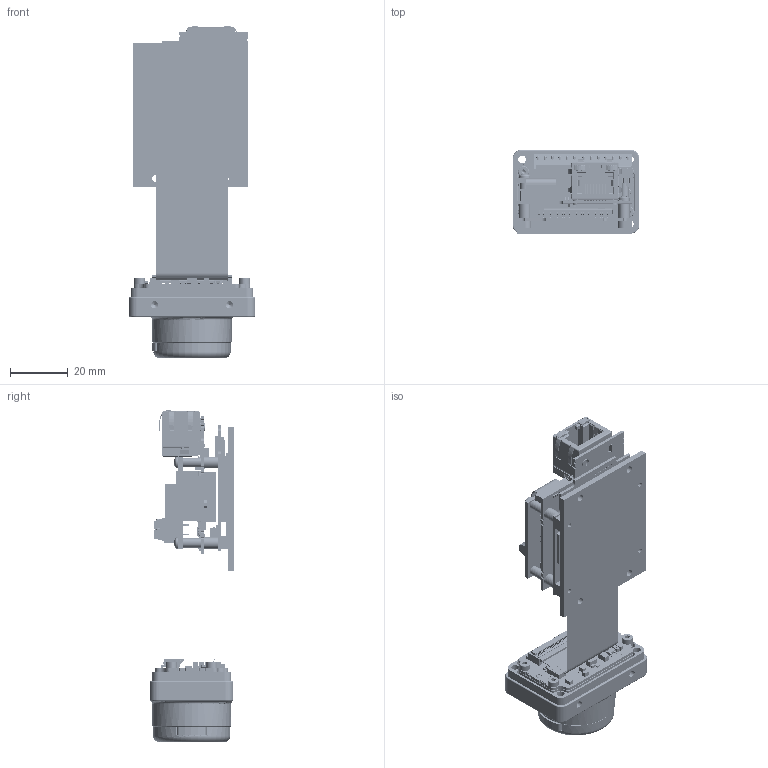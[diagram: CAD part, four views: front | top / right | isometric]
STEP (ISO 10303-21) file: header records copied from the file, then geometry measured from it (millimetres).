
FILE_DESCRIPTION (( 'STEP AP214' ), '1' );
FILE_NAME ('MantaDT-BL_CMV2000-4000_montiert_ÄZ04-2019-10-24.STEP', '2019-10-24T11:44:17', ( '' ), ( '' ), 'SwSTEP 2.0', 'SolidWorks 2018', '' );
FILE_SCHEMA (( 'AUTOMOTIVE_DESIGN' ));
Length unit declared in the file: millimetre
Products named in the file (1): MantaDT-BL_CMV2000-4000_montiert_嚼04-2019-10-24
Bounding box: 44 x 29.22 x 115.26 mm (x, y, z)
Surface area: 51878.1 mm2 (no closed solid volume)
Topology: 0 solids, 235 shells, 21051 faces, 58434 edges, 38340 vertices
Faces by surface type: plane 13193, bspline 4396, cylinder 3105, cone 243, torus 94, sphere 20
Entity records: 1149738 total; most frequent: CARTESIAN_POINT 402307, ORIENTED_EDGE 116488, DIRECTION 88723, EDGE_CURVE 58254, LINE 42405, VECTOR 42405, VERTEX_POINT 38327, AXIS2_PLACEMENT_3D 23159
